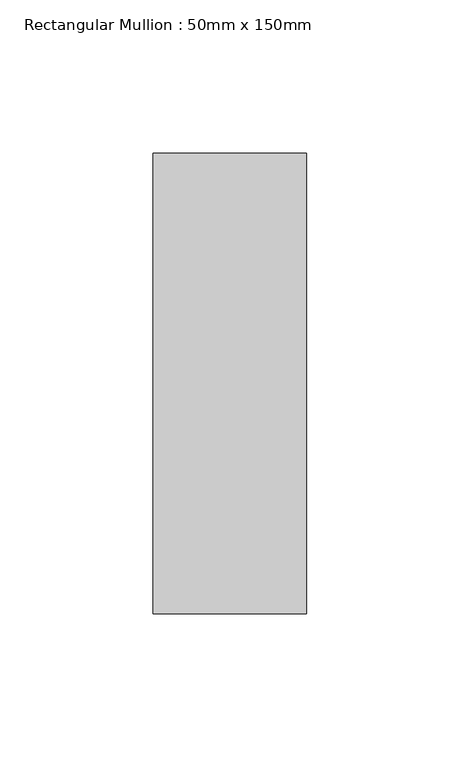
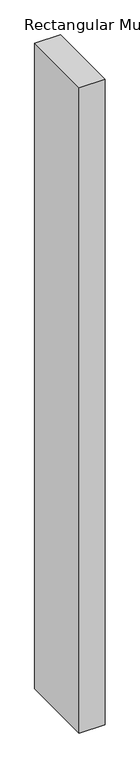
"""IFC4 building model written with IfcOpenShell, lengths in millimetres: member geometry, Rectangular Mullion : 50mm x 150mm."""

from ifc_helpers import new_model, si_unit, frame, origin, place, context, project, spatial, polyline, outline, extrude, source, transform, mapped, element, save


def rectangular_mullion_50mm_x_150mm_4d4922e7(model_context):
    return source(origin(), model_context, "Body", "SweptSolid", [
        extrude(outline(polyline([(0.0, 75.0), (0.0, -75.0), (-50.0, -75.0), (-50.0, 75.0), (0.0, 75.0)])), frame((0.0, 0.0, -1326.0284886), z_axis=(0.0, 0.0, 1.0), x_axis=(1.0, 0.0, 0.0)), (0.0, 0.0, 1.0), 1326.0284886),
    ])


if __name__ == "__main__":
    model = new_model("IFC4")
    model_context = context("Model", 3, world=origin())
    ifc_project = project(units=[si_unit("LENGTHUNIT", "METRE", prefix="MILLI")], contexts=[model_context])
    site = spatial("IfcSite", under=ifc_project)
    building = spatial("IfcBuilding", under=site)
    placement = place(None, origin())
    rectangular_mullion_50mm_x_150mm_shape = rectangular_mullion_50mm_x_150mm_4d4922e7(model_context)
    element("IfcMember", 1, ObjectType="Rectangular Mullion : 50mm x 150mm", at=placement, inside=building, context=model_context, shape_type="MappedRepresentation", body=[
        mapped(rectangular_mullion_50mm_x_150mm_shape, transform((0.0, 0.0, 0.0), x_axis=(1.0, 0.0, 0.0), y_axis=(0.0, 1.0, 0.0), z_axis=(0.0, 0.0, 1.0))),
    ])
    save(model, "model.ifc")
